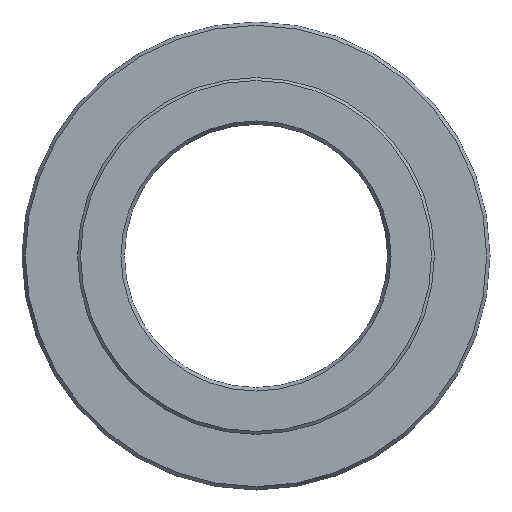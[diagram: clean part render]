
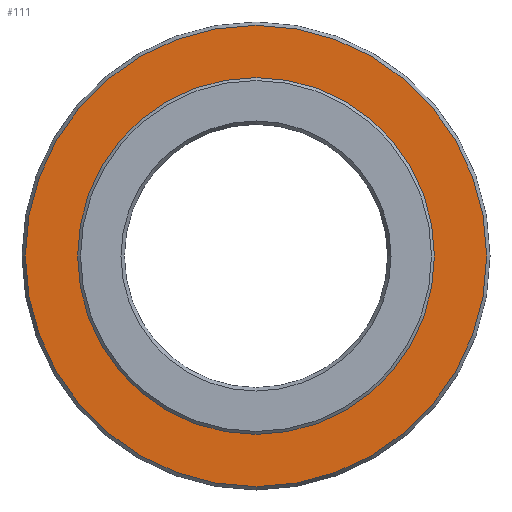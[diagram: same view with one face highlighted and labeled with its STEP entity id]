
A CAD part, left-side view. The second image highlights one B-rep face of the part: STEP entity #111.
In plain terms, the highlighted planar face has unit normal (-1, 0, 0).
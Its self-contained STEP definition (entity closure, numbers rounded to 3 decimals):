
#97=PLANE('',#323);
#111=ADVANCED_FACE('',(#144,#145),#97,.T.);
#144=FACE_BOUND('',#175,.T.);
#145=FACE_BOUND('',#176,.T.);
#175=EDGE_LOOP('',(#214));
#176=EDGE_LOOP('',(#215));
#214=ORIENTED_EDGE('',*,*,#279,.T.);
#215=ORIENTED_EDGE('',*,*,#280,.T.);
#258=VERTEX_POINT('',#461);
#259=VERTEX_POINT('',#463);
#279=EDGE_CURVE('',#258,#258,#298,.T.);
#280=EDGE_CURVE('',#259,#259,#299,.T.);
#298=CIRCLE('',#321,39.423);
#299=CIRCLE('',#322,30.5);
#321=AXIS2_PLACEMENT_3D('',#460,#369,#370);
#322=AXIS2_PLACEMENT_3D('',#462,#371,#372);
#323=AXIS2_PLACEMENT_3D('',#464,#373,#374);
#369=DIRECTION('',(-1.,0.,0.));
#370=DIRECTION('',(0.,0.,1.));
#371=DIRECTION('',(1.,0.,0.));
#372=DIRECTION('',(0.,0.,-1.));
#373=DIRECTION('',(-1.,0.,0.));
#374=DIRECTION('',(0.,0.,1.));
#460=CARTESIAN_POINT('',(0.,0.,0.));
#461=CARTESIAN_POINT('',(0.,0.,39.423));
#462=CARTESIAN_POINT('',(0.,0.,0.));
#463=CARTESIAN_POINT('',(0.,0.,-30.5));
#464=CARTESIAN_POINT('',(0.,40.,0.));
